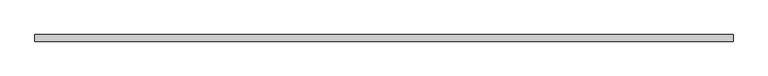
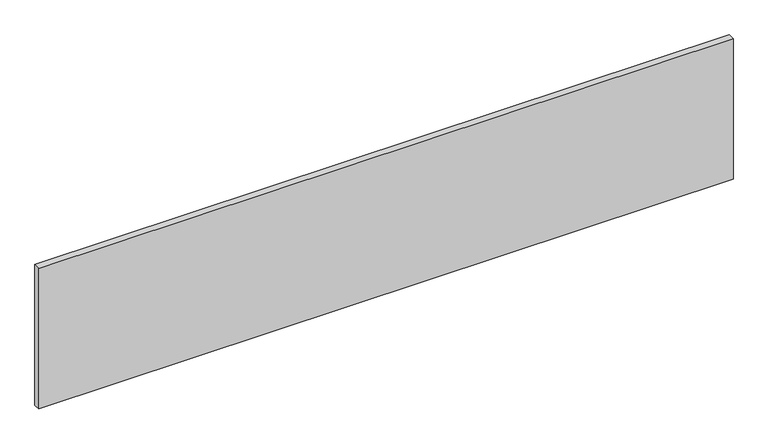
"""IFC4 building model written with IfcOpenShell, lengths in millimetres: proxy geometry, GM_Панель фасадная : Декоративные перемычки."""

from ifc_helpers import new_model, si_unit, origin, origin_with_axes, place, context, project, spatial, polyline, outline, extrude, source, transform, mapped, element, save


def generic_models_30b8ec9e(model_context):
    return source(origin(), model_context, "Body", "SweptSolid", [
        extrude(outline(polyline([(-1975.0, 125.0), (125.0, 125.0), (125.0, 105.0), (-1975.0, 105.0), (-1975.0, 125.0)])), origin_with_axes(), (0.0, 0.0, 1.0), 450.0),
    ])


if __name__ == "__main__":
    model = new_model("IFC4")
    model_context = context("Model", 3, world=origin())
    ifc_project = project(units=[si_unit("LENGTHUNIT", "METRE", prefix="MILLI")], contexts=[model_context])
    site = spatial("IfcSite", under=ifc_project)
    building = spatial("IfcBuilding", under=site)
    placement = place(None, origin())
    generic_models_shape = generic_models_30b8ec9e(model_context)
    element("IfcBuildingElementProxy", 1, Name="GM_Панель фасадная : Декоративные перемычки", ObjectType="GM_Панель фасадная : Декоративные перемычки", at=placement, inside=building, context=model_context, shape_type="MappedRepresentation", body=[
        mapped(generic_models_shape, transform((0.0, 0.0, 0.0), x_axis=(1.0, 0.0, 0.0), y_axis=(0.0, 1.0, 0.0), z_axis=(0.0, 0.0, 1.0))),
    ])
    save(model, "model.ifc")
